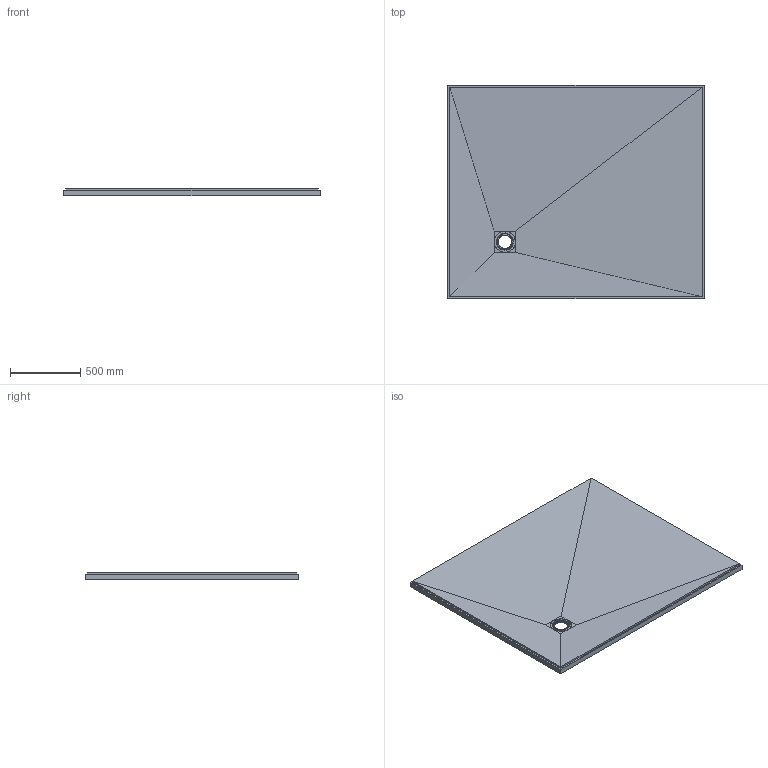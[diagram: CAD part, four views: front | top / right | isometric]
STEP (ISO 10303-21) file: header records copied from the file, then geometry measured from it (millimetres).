
FILE_DESCRIPTION(/* description */ ('Fertigteil'),/* implementation_level */ '2;1');
FILE_NAME(/* name */ 'C:\Users\fuser-vault-job\AppData\Local\Temp\MuM_u1lsrt4k.lm5\D-000002024.iam_.step',/* time_stamp */ '2022-07-14T10:31:46+02:00',/* author */ ('ds'),/* organization */ (''),/* preprocessor_version */ 'ST-DEVELOPER v18.1',/* originating_system */ 'Autodesk Inventor 2020',/* authorisation */ '');
FILE_SCHEMA (('AUTOMOTIVE_DESIGN { 1 0 10303 214 3 1 1 }'));
Products named in the file (3): 073740063; 073740063_1; DD0000003
Assembly tree (2 placements, depth 2):
  073740063
    073740063_1
    DD0000003
Bounding box: 1828 x 1524 x 50 mm (x, y, z)
Volume: 110694378.2 mm3; surface area: 5933481.7 mm2
Topology: 2 solids, 2 shells, 743 faces, 2189 edges, 1474 vertices
Faces by surface type: bspline 372, torus 115, cone 78, cylinder 76, plane 68, sphere 34
Full cylindrical faces by diameter (mm): 6 x3, 151 x1
Entity records: 63140 total; most frequent: CARTESIAN_POINT 44892, ORIENTED_EDGE 4322, DIRECTION 3297, EDGE_CURVE 2161, VERTEX_POINT 1456, AXIS2_PLACEMENT_3D 1338, CIRCLE 812, EDGE_LOOP 803
